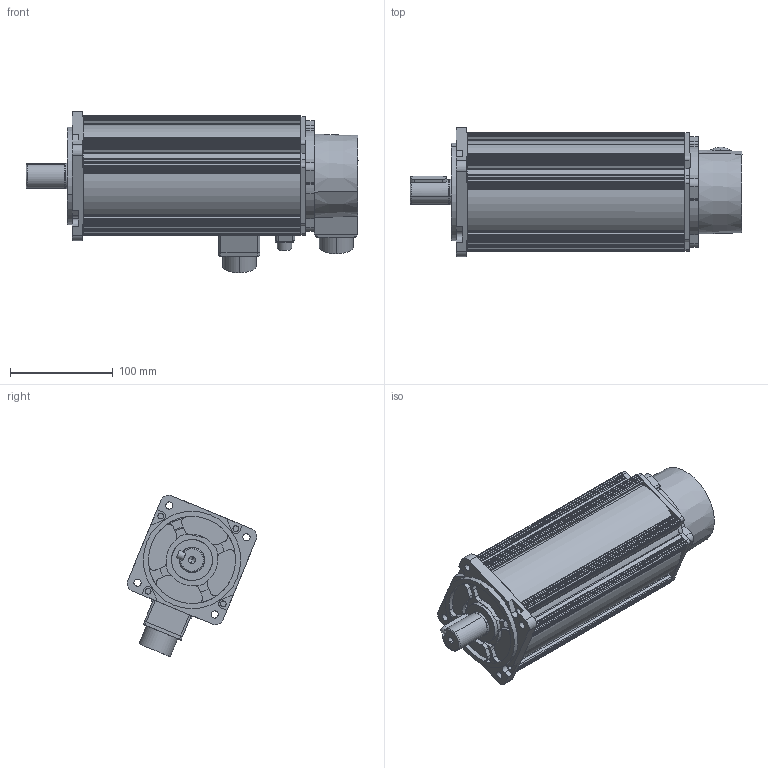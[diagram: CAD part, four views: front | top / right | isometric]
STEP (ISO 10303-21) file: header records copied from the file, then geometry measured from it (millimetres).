
FILE_DESCRIPTION (( 'STEP AP203' ), '1' );
FILE_NAME ('AS2MJ-10-2530C-H342.STEP', '2024-07-09T05:39:17', ( 'Admin' ), ( '' ), 'SwSTEP 2.0', 'SolidWorks 2018', '' );
FILE_SCHEMA (( 'CONFIG_CONTROL_DESIGN' ));
Length unit declared in the file: millimetre
Products named in the file (1): AS2MJ-10-2530C-H342
Bounding box: 323.7 x 126.22 x 157.45 mm (x, y, z)
Volume: 629803.5 mm3; surface area: 309892.2 mm2
Topology: 12 solids, 12 shells, 800 faces, 2236 edges, 1431 vertices
Faces by surface type: plane 382, cylinder 359, bspline 38, cone 21
Entity records: 26552 total; most frequent: CARTESIAN_POINT 5628, DIRECTION 4408, ORIENTED_EDGE 4324, EDGE_CURVE 2162, AXIS2_PLACEMENT_3D 1511, VERTEX_POINT 1431, VECTOR 1386, LINE 1386
